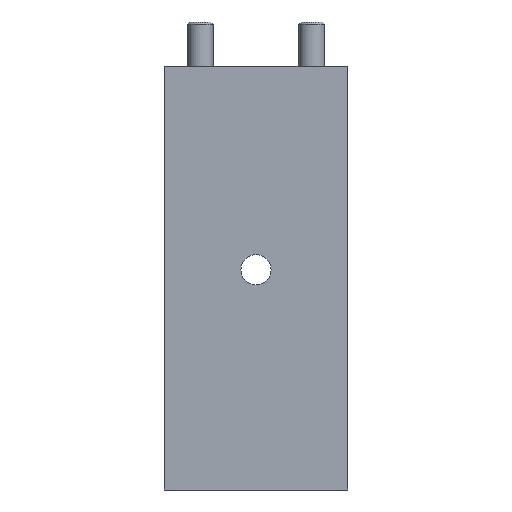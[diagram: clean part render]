
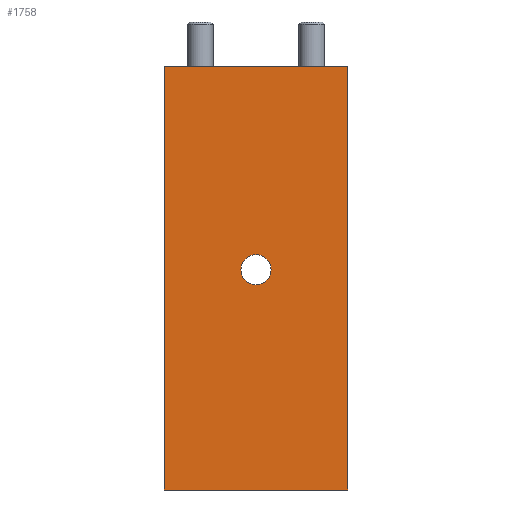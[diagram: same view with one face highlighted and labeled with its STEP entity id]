
A CAD part, front view. The second image highlights one B-rep face of the part: STEP entity #1758.
In plain terms, the highlighted planar face has unit normal (0, -1, 0).
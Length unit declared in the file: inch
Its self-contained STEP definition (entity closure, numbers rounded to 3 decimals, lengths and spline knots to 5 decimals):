
#49 = AXIS2_PLACEMENT_3D ( 'NONE', #663, #1462, #1810 ) ;
#60 = ORIENTED_EDGE ( 'NONE', *, *, #1035, .T. ) ;
#107 = VECTOR ( 'NONE', #684, 39.37008 ) ;
#115 = FACE_BOUND ( 'NONE', #129, .T. ) ;
#129 = EDGE_LOOP ( 'NONE', ( #1611, #896 ) ) ;
#130 = DIRECTION ( 'NONE',  ( 0., 0., 1. ) ) ;
#191 = VERTEX_POINT ( 'NONE', #892 ) ;
#261 = LINE ( 'NONE', #2075, #1990 ) ;
#267 = ORIENTED_EDGE ( 'NONE', *, *, #672, .F. ) ;
#272 = CARTESIAN_POINT ( 'NONE',  ( 0.3248, 0., -1.5 ) ) ;
#459 = AXIS2_PLACEMENT_3D ( 'NONE', #1020, #852, #546 ) ;
#506 = CARTESIAN_POINT ( 'NONE',  ( 0., 0., -0.66683 ) ) ;
#546 = DIRECTION ( 'NONE',  ( 0., 0., 1. ) ) ;
#574 = DIRECTION ( 'NONE',  ( 0., -1., 0. ) ) ;
#579 = LINE ( 'NONE', #272, #670 ) ;
#626 = DIRECTION ( 'NONE',  ( 1., 0., 0. ) ) ;
#663 = CARTESIAN_POINT ( 'NONE',  ( 0., 0., -0.72008 ) ) ;
#670 = VECTOR ( 'NONE', #1245, 39.37008 ) ;
#672 = EDGE_CURVE ( 'NONE', #933, #1675, #261, .T. ) ;
#684 = DIRECTION ( 'NONE',  ( 1., 0., 0. ) ) ;
#695 = EDGE_CURVE ( 'NONE', #191, #790, #579, .T. ) ;
#740 = VERTEX_POINT ( 'NONE', #506 ) ;
#751 = EDGE_CURVE ( 'NONE', #1776, #740, #1728, .T. ) ;
#760 = CARTESIAN_POINT ( 'NONE',  ( -0.3248, 0., -1.5 ) ) ;
#772 = AXIS2_PLACEMENT_3D ( 'NONE', #760, #574, #1070 ) ;
#790 = VERTEX_POINT ( 'NONE', #1469 ) ;
#796 = CARTESIAN_POINT ( 'NONE',  ( -0.3248, 0., -1.5 ) ) ;
#852 = DIRECTION ( 'NONE',  ( 0., 1., 0. ) ) ;
#892 = CARTESIAN_POINT ( 'NONE',  ( 0.3248, 0., -1.5 ) ) ;
#896 = ORIENTED_EDGE ( 'NONE', *, *, #751, .T. ) ;
#924 = CIRCLE ( 'NONE', #459, 0.05325 ) ;
#933 = VERTEX_POINT ( 'NONE', #1733 ) ;
#1020 = CARTESIAN_POINT ( 'NONE',  ( 0., 0., -0.72008 ) ) ;
#1032 = CARTESIAN_POINT ( 'NONE',  ( -0.3248, 0., 0. ) ) ;
#1035 = EDGE_CURVE ( 'NONE', #933, #191, #2113, .T. ) ;
#1070 = DIRECTION ( 'NONE',  ( 1., 0., 0. ) ) ;
#1245 = DIRECTION ( 'NONE',  ( 0., 0., 1. ) ) ;
#1298 = EDGE_LOOP ( 'NONE', ( #1398, #267, #60, #1567 ) ) ;
#1330 = LINE ( 'NONE', #1505, #107 ) ;
#1398 = ORIENTED_EDGE ( 'NONE', *, *, #1508, .F. ) ;
#1412 = FACE_OUTER_BOUND ( 'NONE', #1298, .T. ) ;
#1462 = DIRECTION ( 'NONE',  ( 0., 1., 0. ) ) ;
#1469 = CARTESIAN_POINT ( 'NONE',  ( 0.3248, 0., 0. ) ) ;
#1505 = CARTESIAN_POINT ( 'NONE',  ( -0.3248, 0., 0. ) ) ;
#1508 = EDGE_CURVE ( 'NONE', #1675, #790, #1330, .T. ) ;
#1567 = ORIENTED_EDGE ( 'NONE', *, *, #695, .T. ) ;
#1611 = ORIENTED_EDGE ( 'NONE', *, *, #1824, .T. ) ;
#1675 = VERTEX_POINT ( 'NONE', #1032 ) ;
#1728 = CIRCLE ( 'NONE', #49, 0.05325 ) ;
#1733 = CARTESIAN_POINT ( 'NONE',  ( -0.3248, 0., -1.5 ) ) ;
#1755 = CARTESIAN_POINT ( 'NONE',  ( 0., 0., -0.77333 ) ) ;
#1758 = ADVANCED_FACE ( 'NONE', ( #115, #1412 ), #2071, .T. ) ;
#1776 = VERTEX_POINT ( 'NONE', #1755 ) ;
#1810 = DIRECTION ( 'NONE',  ( 0., 0., 1. ) ) ;
#1824 = EDGE_CURVE ( 'NONE', #740, #1776, #924, .T. ) ;
#1907 = VECTOR ( 'NONE', #626, 39.37008 ) ;
#1990 = VECTOR ( 'NONE', #130, 39.37008 ) ;
#2071 = PLANE ( 'NONE',  #772 ) ;
#2075 = CARTESIAN_POINT ( 'NONE',  ( -0.3248, 0., -1.5 ) ) ;
#2113 = LINE ( 'NONE', #796, #1907 ) ;
